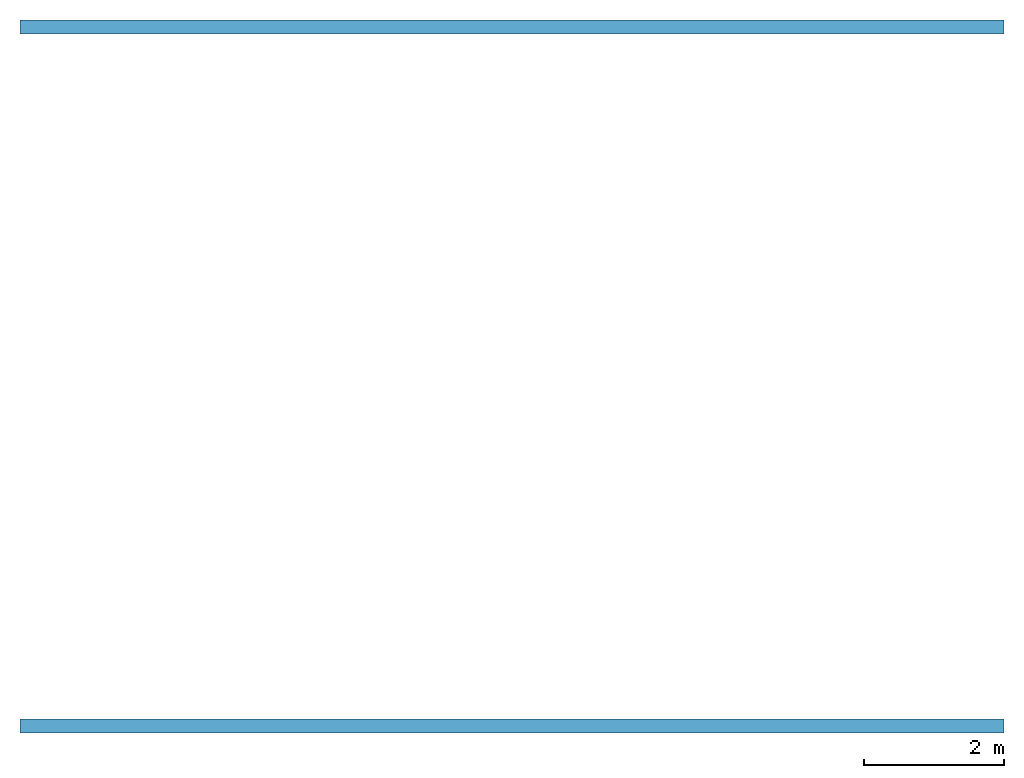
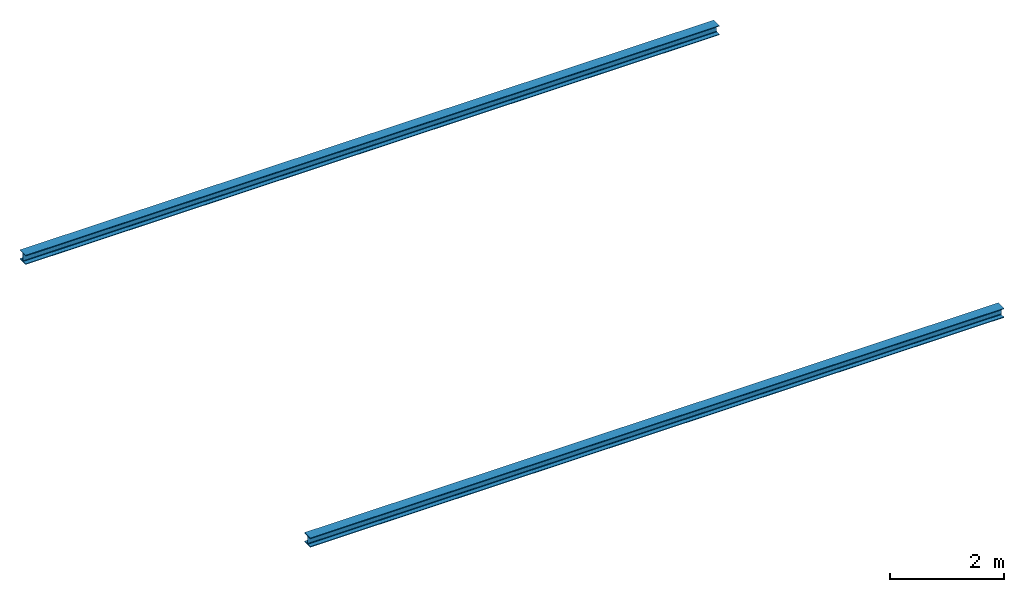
# One storey: 2 beams.
"""IFC2X3 building model written with IfcOpenShell, lengths in millimetres."""

from ifc_helpers import new_model, entity, si_unit, converted_unit, derived_unit, direction, frame, frame_2d, origin, place, context, subcontext, project, spatial, i_section, extrude, material, type_object, element, save


model = new_model("IFC2X3")

# Units and contexts
model_context = context("Model", 3, precision=0.01, world=origin(), true_north=direction((6.123031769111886e-17, 1.0)))
body_context = subcontext(model_context, "Body", "Model", "MODEL_VIEW")
ifc_project = project(units=[si_unit("LENGTHUNIT", "METRE", prefix="MILLI"), si_unit("AREAUNIT", "SQUARE_METRE"), si_unit("VOLUMEUNIT", "CUBIC_METRE"), converted_unit("PLANEANGLEUNIT", "DEGREE", entity("IfcRatioMeasure", 0.017453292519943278), si_unit("PLANEANGLEUNIT", "RADIAN"), dimensions=[0, 0, 0, 0, 0, 0, 0]), si_unit("MASSUNIT", "GRAM", prefix="KILO"), derived_unit("MASSDENSITYUNIT", [(si_unit("MASSUNIT", "GRAM", prefix="KILO"), 1), (si_unit("LENGTHUNIT", "METRE"), -3)]), derived_unit("MOMENTOFINERTIAUNIT", [(si_unit("LENGTHUNIT", "METRE"), 4)]), si_unit("TIMEUNIT", "SECOND"), si_unit("FREQUENCYUNIT", "HERTZ"), si_unit("THERMODYNAMICTEMPERATUREUNIT", "DEGREE_CELSIUS"), derived_unit("THERMALTRANSMITTANCEUNIT", [(si_unit("MASSUNIT", "GRAM", prefix="KILO"), 1), (si_unit("THERMODYNAMICTEMPERATUREUNIT", "KELVIN"), -1), (si_unit("TIMEUNIT", "SECOND"), -3)]), derived_unit("VOLUMETRICFLOWRATEUNIT", [(si_unit("LENGTHUNIT", "METRE"), 3), (si_unit("TIMEUNIT", "SECOND"), -1)]), derived_unit("MASSFLOWRATEUNIT", [(si_unit("MASSUNIT", "GRAM", prefix="KILO"), 1), (si_unit("TIMEUNIT", "SECOND"), -1)]), derived_unit("ROTATIONALFREQUENCYUNIT", [(si_unit("TIMEUNIT", "SECOND"), -1)]), si_unit("ELECTRICCURRENTUNIT", "AMPERE"), si_unit("ELECTRICVOLTAGEUNIT", "VOLT"), si_unit("POWERUNIT", "WATT"), si_unit("FORCEUNIT", "NEWTON", prefix="KILO"), si_unit("ILLUMINANCEUNIT", "LUX"), si_unit("LUMINOUSFLUXUNIT", "LUMEN"), si_unit("LUMINOUSINTENSITYUNIT", "CANDELA"), derived_unit("USERDEFINED", [(si_unit("MASSUNIT", "GRAM", prefix="KILO"), -1), (si_unit("LENGTHUNIT", "METRE"), -2), (si_unit("TIMEUNIT", "SECOND"), 3), (si_unit("LUMINOUSFLUXUNIT", "LUMEN"), 1)]), derived_unit("SOUNDPOWERUNIT", [(si_unit("MASSUNIT", "GRAM", prefix="KILO"), 1), (si_unit("LENGTHUNIT", "METRE"), 2), (si_unit("TIMEUNIT", "SECOND"), -3)]), derived_unit("SOUNDPRESSUREUNIT", [(si_unit("MASSUNIT", "GRAM", prefix="KILO"), 1), (si_unit("LENGTHUNIT", "METRE"), -1), (si_unit("TIMEUNIT", "SECOND"), -2)]), derived_unit("LINEARVELOCITYUNIT", [(si_unit("LENGTHUNIT", "METRE"), 1), (si_unit("TIMEUNIT", "SECOND"), -1)]), si_unit("PRESSUREUNIT", "PASCAL"), derived_unit("USERDEFINED", [(si_unit("LENGTHUNIT", "METRE"), -2), (si_unit("MASSUNIT", "GRAM", prefix="KILO"), 1), (si_unit("TIMEUNIT", "SECOND"), -2)]), derived_unit("LINEARFORCEUNIT", [(si_unit("MASSUNIT", "GRAM", prefix="KILO"), 1), (si_unit("LENGTHUNIT", "METRE"), 1), (si_unit("TIMEUNIT", "SECOND"), -2), (si_unit("LENGTHUNIT", "METRE"), -1)]), derived_unit("PLANARFORCEUNIT", [(si_unit("MASSUNIT", "GRAM", prefix="KILO"), 1), (si_unit("LENGTHUNIT", "METRE"), 1), (si_unit("TIMEUNIT", "SECOND"), -2), (si_unit("LENGTHUNIT", "METRE"), -2)])], contexts=[model_context])

# Site, building, storey
site_placement = place(None, origin())
site = spatial("IfcSite", under=ifc_project, at=site_placement, Name="Default", CompositionType="ELEMENT")
building_placement = place(site_placement, origin())
building = spatial("IfcBuilding", under=site, at=building_placement, CompositionType="ELEMENT")
storey_placement = place(building_placement, frame((0.0, 0.0, 6000.0)))
storey = spatial("IfcBuildingStorey", under=building, at=storey_placement, Name="外部軒高さ", CompositionType="ELEMENT", Elevation=6000.0)

# Beams
ifc_material = material(Name="構造用鋼 - S235")
beam_type = type_object("IfcBeamType", Name="HE-B:HEB200", PredefinedType="NOTDEFINED")
beam_1_placement = place(storey_placement, frame((130700.0, 12500.0, 0.0)))
element("IfcBeam", 1, at=beam_1_placement, inside=storey, type_object=beam_type, material=ifc_material, Name="HE-B:HEB200", ObjectType="HE-B:HEB200", context=body_context, shape_type="SweptSolid", body=[
    extrude(i_section(OverallWidth=200.0000000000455, OverallDepth=200.0, WebThickness=8.999999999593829, FlangeThickness=15.000000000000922, FilletRadius=18.00000000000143, at=frame_2d((1.0871303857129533e-12, -1.0871303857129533e-12), x_axis=(0.0, 1.0))), frame((137.69999999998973, 0.0, -100.0), z_axis=(1.0, 0.0, 0.0), x_axis=(0.0, 0.0, -1.0)), (0.0, 0.0, 1.0), 14074.600000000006),
])
beam_2_placement = place(storey_placement, frame((130700.0, 2500.0, 0.0)))
element("IfcBeam", 2, at=beam_2_placement, inside=storey, type_object=beam_type, material=ifc_material, Name="HE-B:HEB200", ObjectType="HE-B:HEB200", context=body_context, shape_type="SweptSolid", body=[
    extrude(i_section(OverallWidth=200.00000000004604, OverallDepth=200.0, WebThickness=8.999999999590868, FlangeThickness=15.000000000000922, FilletRadius=18.00000000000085, at=frame_2d((1.0800249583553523e-12, -8.100187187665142e-13), x_axis=(0.0, 1.0))), frame((137.69999999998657, 0.0, -100.0), z_axis=(1.0, 0.0, 0.0), x_axis=(0.0, 0.0, -1.0)), (0.0, 0.0, 1.0), 14074.600000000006),
])

save(model, "model.ifc")
